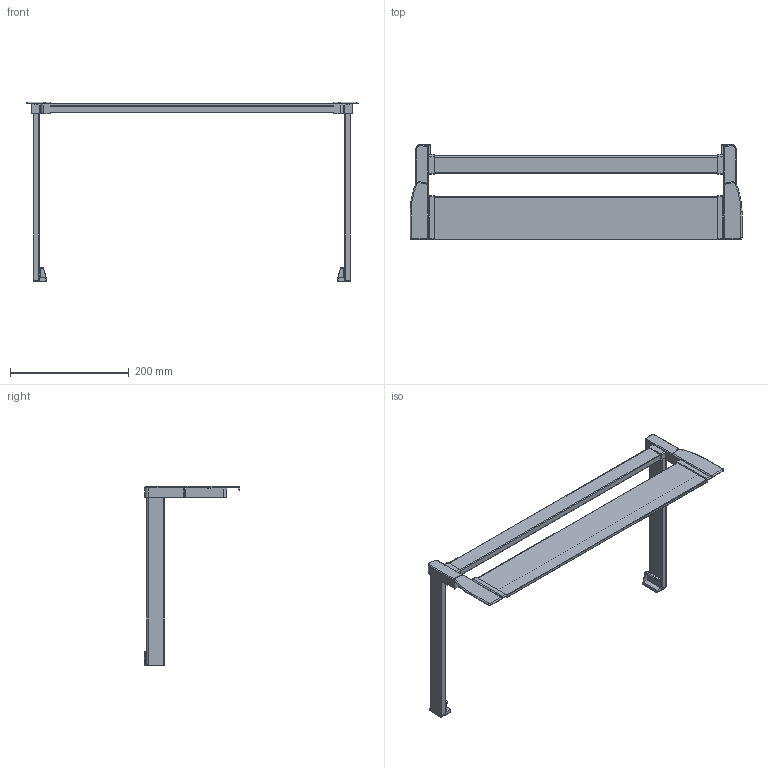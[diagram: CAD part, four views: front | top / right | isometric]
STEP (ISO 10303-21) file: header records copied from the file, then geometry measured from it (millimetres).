
FILE_DESCRIPTION (( 'STEP AP214' ), '1' );
FILE_NAME ('1_P620_NL 300_KAB 600_16er KS_.step', '2009-09-16T06:29:08', ( 'Waldinger Reinhard' ), ( 'Grass GmbH' ), 'SwSTEP 2.0', 'SolidWorks 2009', '' );
FILE_SCHEMA (( 'AUTOMOTIVE_DESIGN' ));
Length unit declared in the file: millimetre
Products named in the file (1): 1_P620_NL 300_KAB 600_16er KS_
Bounding box: 559.6 x 160.5 x 302.8 mm (x, y, z)
Volume: 857921.6 mm3; surface area: 203294.3 mm2
Topology: 1 solids, 1 shells, 220 faces, 578 edges, 364 vertices
Faces by surface type: plane 97, cylinder 91, torus 28, sphere 2, bspline 2
Entity records: 7004 total; most frequent: CARTESIAN_POINT 1345, DIRECTION 1198, ORIENTED_EDGE 1152, EDGE_CURVE 576, AXIS2_PLACEMENT_3D 433, VERTEX_POINT 364, VECTOR 332, LINE 332
